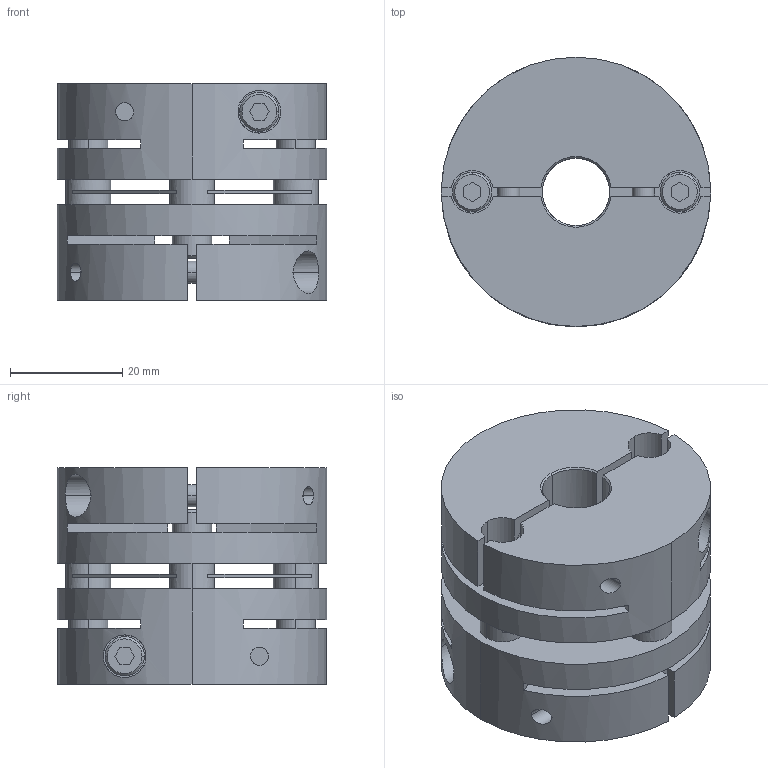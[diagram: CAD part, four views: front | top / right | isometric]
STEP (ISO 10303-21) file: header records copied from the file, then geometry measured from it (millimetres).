
FILE_DESCRIPTION((''),'2;1');
FILE_NAME('LAS-48C-12×16.stp','2011-08-09T16:51:39',(''),(''),'AutoCAD STEP 2000i','AutoCAD 2000i',', , ');
FILE_SCHEMA(('CONFIG_CONTROL_DESIGN'));
Length unit declared in the file: millimetre
Products named in the file (5): LAS-48C-12×12; 忣兜1; LA-4802-D12-1; LA-4802-D12; LAS48-ITA
Assembly tree (4 placements, depth 2):
  LAS-48C-12×12
    忣兜1
    LA-4802-D12-1
    LA-4802-D12
    LAS48-ITA
Bounding box: 48 x 48 x 38.6 mm (x, y, z)
Volume: 50383.4 mm3; surface area: 22569.1 mm2
Topology: 1 solids, 1 shells, 224 faces, 588 edges, 384 vertices
Faces by surface type: plane 112, cylinder 84, cone 28
Entity records: 7607 total; most frequent: CARTESIAN_POINT 1713, DIRECTION 1250, ORIENTED_EDGE 1176, EDGE_CURVE 588, AXIS2_PLACEMENT_3D 457, VERTEX_POINT 384, VECTOR 336, LINE 336
